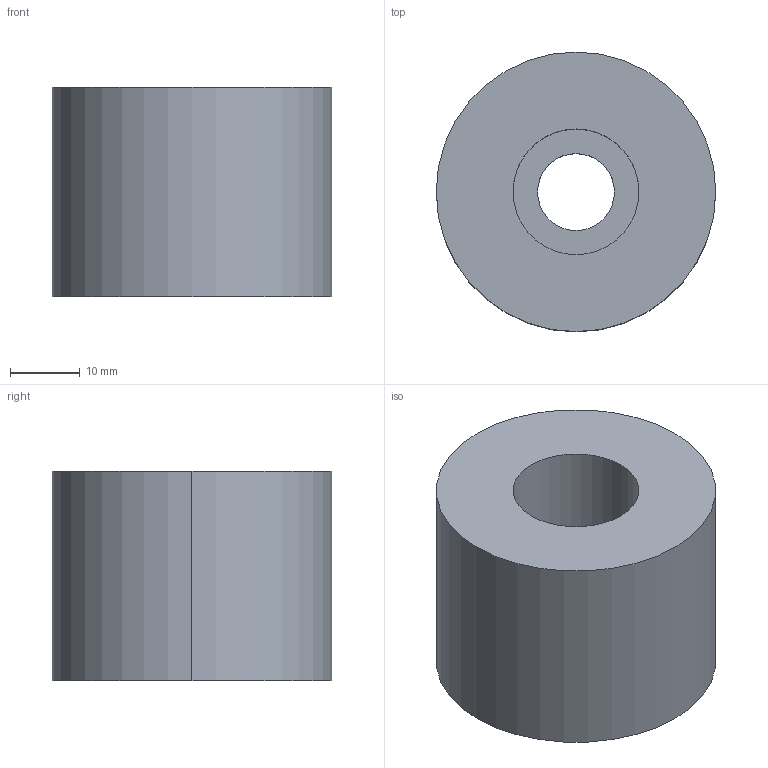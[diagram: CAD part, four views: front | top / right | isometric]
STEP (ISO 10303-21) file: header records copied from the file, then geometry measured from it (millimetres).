
FILE_DESCRIPTION(/* description */ (''),/* implementation_level */ '2;1');
FILE_NAME(/* name */ '3d_azn40-30_03261_r00.stp',/* time_stamp */ '2011-01-10T14:17:33+09:00',/* author */ ('MISUMI'),/* organization */ (''),/* preprocessor_version */ 'ST-DEVELOPER v11',/* originating_system */ 'UGS - NX 5.0',/* authorisation */ '');
FILE_SCHEMA (('CONFIG_CONTROL_DESIGN'));
Length unit declared in the file: millimetre
Products named in the file (1): 3d_azn40-30_03261_r00
Bounding box: 40 x 40 x 30 mm (x, y, z)
Volume: 31659.4 mm3; surface area: 7569.7 mm2
Topology: 1 solids, 1 shells, 9 faces, 18 edges, 12 vertices
Faces by surface type: cylinder 6, plane 3
Entity records: 334 total; most frequent: DIRECTION 50, CARTESIAN_POINT 40, ORIENTED_EDGE 36, AXIS2_PLACEMENT_3D 22, EDGE_CURVE 18, EDGE_LOOP 12, VERTEX_POINT 12, CIRCLE 12
